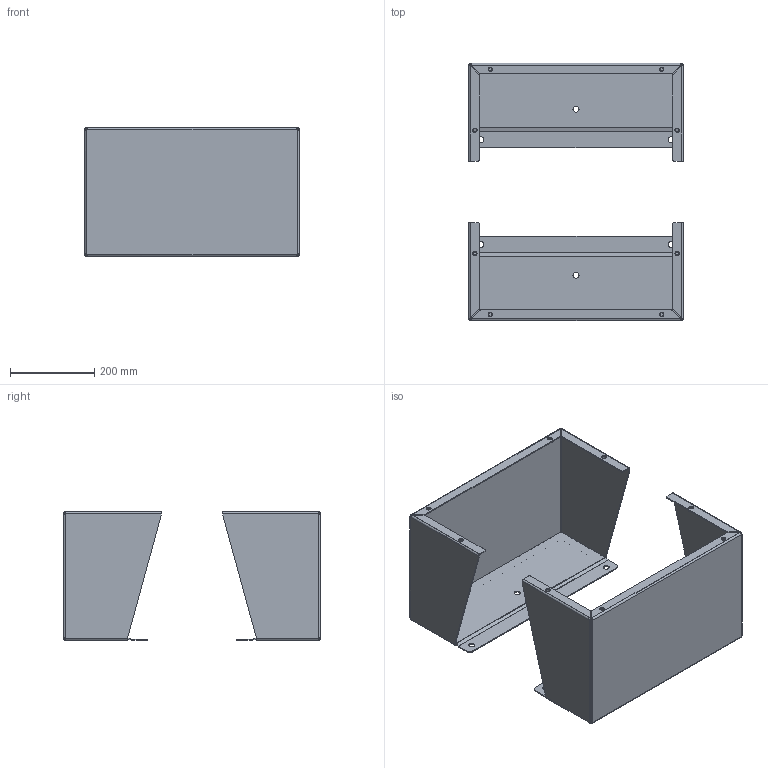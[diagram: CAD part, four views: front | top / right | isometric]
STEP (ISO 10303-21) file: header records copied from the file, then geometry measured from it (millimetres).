
FILE_DESCRIPTION((''),'2;1');
FILE_NAME('MODEL-201_ASM','2019-08-27T16:08:17',('Eplan'),('SAGINAW CONTROL & ENGINEERING'),'CREO PARAMETRIC BY PTC INC, 2017260','CREO PARAMETRIC BY PTC INC, 2017260','');
FILE_SCHEMA(('AUTOMOTIVE_DESIGN { 1 0 10303 214 1 1 1 1 }'));
Length unit declared in the file: inch
Products named in the file (6): MODEL-201-FK-BODY; MODEL-201-FK-BASE; 100091; MODEL-201-FK-LEG_ASM; 117614; MODEL-201_ASM
Assembly tree (9 placements, depth 3):
  MODEL-201_ASM
    MODEL-201-FK-LEG_ASM  x2
      MODEL-201-FK-BODY
      MODEL-201-FK-BASE
      100091
    117614
Bounding box: 508 x 609.6 x 304.8 mm (x, y, z)
Volume: 2132957.8 mm3; surface area: 1638975.8 mm2
Topology: 12 solids, 12 shells, 380 faces, 852 edges, 504 vertices
Faces by surface type: plane 152, cylinder 148, cone 48, bspline 32
Entity records: 7136 total; most frequent: CARTESIAN_POINT 1404, DIRECTION 698, ORIENTED_EDGE 672, PRESENTATION_STYLE_ASSIGNMENT 339, STYLED_ITEM 339, CURVE_STYLE 336, EDGE_CURVE 336, AXIS2_PLACEMENT_3D 244
